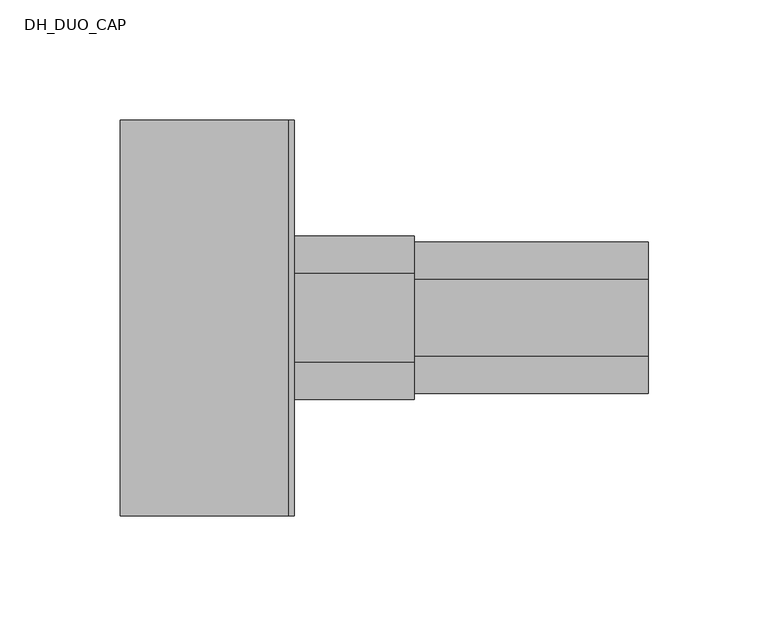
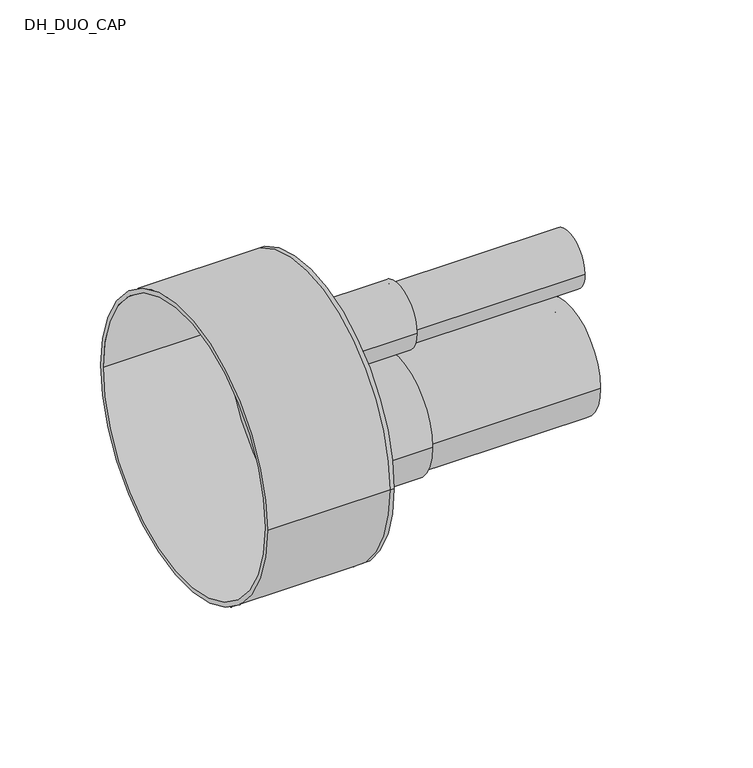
"""IFC4 building model written with IfcOpenShell, lengths in millimetres: pipe fitting geometry, DH_DUO_CAP : INSULPEX DUO 7.4 DW - Schrink Cap."""

import ifcopenshell
import ifcopenshell.guid

model = None  # the IFC model being written
_history = None  # IfcOwnerHistory: only IFC2X3 demands one
_inside = {}  # id of a spatial element -> (the spatial element, [elements in it])
_under = {}  # id of a project, library or spatial element -> (it, [spatial elements below it])
_declared = {}  # id of a project -> (the project, [libraries it declares])
_typed = {}  # id of a type object -> (the type object, [elements of that type])
_made_of = {}  # id of a material, layer set ... -> (it, [elements and type objects made of it])


def new_model(schema):
    """Start an empty IFC model of exactly this schema.

    Asked for "IFC4X3", IfcOpenShell would pick the latest addendum, in which some entities
    have other attributes; the version numbers below select the first issue.
    IFC2X3 requires an IfcOwnerHistory on every rooted entity: one is made here for all.
    """
    global model, _history
    if schema == "IFC4X3":
        model = ifcopenshell.file(schema_version=(4, 3, 0, 0))
    else:
        model = ifcopenshell.file(schema=schema)
    _inside.clear()
    _under.clear()
    _declared.clear()
    _typed.clear()
    _made_of.clear()
    _history = None
    if model.schema == "IFC2X3":
        org = make("IfcOrganization", Name="unknown")
        user = make(
            "IfcPersonAndOrganization",
            ThePerson=make("IfcPerson", FamilyName="unknown"),
            TheOrganization=org,
        )
        app = make(
            "IfcApplication",
            ApplicationDeveloper=org,
            Version="unknown",
            ApplicationFullName="unknown",
            ApplicationIdentifier="unknown",
        )
        _history = make(
            "IfcOwnerHistory",
            OwningUser=user,
            OwningApplication=app,
            ChangeAction="ADDED",
            CreationDate=0,
        )
    return model


def make(cls, **values):
    """One entity of the class cls with the attributes given. An attribute that is None is left unset."""
    return model.create_entity(
        cls, **{name: value for name, value in values.items() if value is not None}
    )


def rooted(cls, **values):
    """An entity with a GlobalId (a new one), such as an element, a storey or a relation."""
    return make(cls, GlobalId=ifcopenshell.guid.new(), OwnerHistory=_history, **values)


def si_unit(unit_type, name, prefix=None):
    """IfcSIUnit, for example si_unit("LENGTHUNIT", "METRE", prefix="MILLI")."""
    return make("IfcSIUnit", UnitType=unit_type, Prefix=prefix, Name=name)


def assignment(units):
    """IfcUnitAssignment: the units of a project."""
    return None if units is None else make("IfcUnitAssignment", Units=units)


def point(xyz):
    """IfcCartesianPoint."""
    return None if xyz is None else make("IfcCartesianPoint", Coordinates=xyz)


def direction(xyz):
    """IfcDirection."""
    return None if xyz is None else make("IfcDirection", DirectionRatios=xyz)


def frame(location, z_axis=None, x_axis=None):
    """IfcAxis2Placement3D, a coordinate frame: its origin and axes. An axis left out is left unset."""
    return make(
        "IfcAxis2Placement3D",
        Location=point(location),
        Axis=direction(z_axis),
        RefDirection=direction(x_axis),
    )


def frame_2d(location, x_axis=None):
    """IfcAxis2Placement2D, a coordinate frame in the plane: its origin and x axis."""
    return make(
        "IfcAxis2Placement2D", Location=point(location), RefDirection=direction(x_axis)
    )


def origin():
    """The frame at (0, 0, 0) with its axes left unset."""
    return frame((0.0, 0.0, 0.0))


def place(relative_to, where):
    """IfcLocalPlacement: puts the frame where relative to a parent placement (None: the world)."""
    return make(
        "IfcLocalPlacement", PlacementRelTo=relative_to, RelativePlacement=where
    )


def context(
    kind, dimensions, precision=None, world=None, true_north=None, identifier=None
):
    """IfcGeometricRepresentationContext, for example the 3D "Model" context."""
    return make(
        "IfcGeometricRepresentationContext",
        ContextIdentifier=identifier,
        ContextType=kind,
        CoordinateSpaceDimension=dimensions,
        Precision=precision,
        WorldCoordinateSystem=world,
        TrueNorth=true_north,
    )


def project(units=None, contexts=None):
    """IfcProject with its units and contexts."""
    return rooted(
        "IfcProject",
        Name="project",
        RepresentationContexts=contexts,
        UnitsInContext=assignment(units),
    )


def spatial(cls, under=None, at=None, **own):
    """A site, building, storey or space (cls), placed at a placement, below another one or the project."""
    s = rooted(cls, ObjectPlacement=at, **own)
    if under is not None:
        _under.setdefault(under.id(), (under, []))[1].append(s)
    return s


def polyline(points):
    """IfcPolyline through the points."""
    return make("IfcPolyline", Points=[point(p) for p in points])


def circle_curve(where, radius):
    """IfcCircle in the frame where."""
    return make("IfcCircle", Position=where, Radius=radius)


def trimmed(basis, trim1, trim2, sense, master):
    """IfcTrimmedCurve: the piece of a basis curve between two trims."""
    return make(
        "IfcTrimmedCurve",
        BasisCurve=basis,
        Trim1=trim1,
        Trim2=trim2,
        SenseAgreement=sense,
        MasterRepresentation=master,
    )


def segment(curve, same_sense, transition):
    """IfcCompositeCurveSegment."""
    return make(
        "IfcCompositeCurveSegment",
        Transition=transition,
        SameSense=same_sense,
        ParentCurve=curve,
    )


def composite_curve(segments, self_intersect=None):
    """IfcCompositeCurve: segments joined end to end."""
    return make("IfcCompositeCurve", Segments=segments, SelfIntersect=self_intersect)


def outline(outer, holes=None, kind="AREA"):
    """IfcArbitraryClosedProfileDef: a profile drawn as a closed curve; with holes, ...WithVoids."""
    if holes is None:
        return make("IfcArbitraryClosedProfileDef", ProfileType=kind, OuterCurve=outer)
    return make(
        "IfcArbitraryProfileDefWithVoids",
        ProfileType=kind,
        OuterCurve=outer,
        InnerCurves=holes,
    )


def extrude(swept, where, along, depth):
    """IfcExtrudedAreaSolid: the profile swept, set in the frame where, extruded along a direction by depth."""
    return make(
        "IfcExtrudedAreaSolid",
        SweptArea=swept,
        Position=where,
        ExtrudedDirection=direction(along),
        Depth=depth,
    )


def shape(context_of_items, identifier, shape_type, items):
    """IfcShapeRepresentation: the items that make up one representation, for example the "Body"."""
    return make(
        "IfcShapeRepresentation",
        ContextOfItems=context_of_items,
        RepresentationIdentifier=identifier,
        RepresentationType=shape_type,
        Items=items,
    )


def source(mapping_origin, context_of_items, identifier, shape_type, items):
    """IfcRepresentationMap: a shape defined once, which mapped items show again and again."""
    return make(
        "IfcRepresentationMap",
        MappingOrigin=mapping_origin,
        MappedRepresentation=shape(context_of_items, identifier, shape_type, items),
    )


def transform(
    local_origin,
    x_axis=None,
    y_axis=None,
    z_axis=None,
    scale=None,
    scale2=None,
    scale3=None,
    uniform=True,
):
    """IfcCartesianTransformationOperator3D, or its non-uniform kind. x_axis, y_axis, z_axis: its Axis1, 2, 3."""
    if uniform:
        return make(
            "IfcCartesianTransformationOperator3D",
            Axis1=direction(x_axis),
            Axis2=direction(y_axis),
            LocalOrigin=point(local_origin),
            Scale=scale,
            Axis3=direction(z_axis),
        )
    return make(
        "IfcCartesianTransformationOperator3DnonUniform",
        Axis1=direction(x_axis),
        Axis2=direction(y_axis),
        LocalOrigin=point(local_origin),
        Scale=scale,
        Axis3=direction(z_axis),
        Scale2=scale2,
        Scale3=scale3,
    )


def mapped(mapping_source, mapping_target):
    """IfcMappedItem: shows the shape of a source again, moved by a transform."""
    return make(
        "IfcMappedItem", MappingSource=mapping_source, MappingTarget=mapping_target
    )


def made_of(thing, what):
    """Note that an element or type object is made of a material, layer set ...; save() writes the relation."""
    if what is not None:
        _made_of.setdefault(what.id(), (what, []))[1].append(thing)
    return thing


def element(
    cls,
    number,
    at=None,
    inside=None,
    cuts=None,
    type_object=None,
    material=None,
    context=None,
    identifier="Body",
    shape_type=None,
    held_by="IfcProductDefinitionShape",
    body=None,
    shapes=None,
    **own,
):
    """One element of the class cls, such as IfcWall. Its Tag is "e" and its number.

    at: its placement. inside: the storey or other place that contains it. cuts: it is an
    opening in that element (IfcRelVoidsElement). A single representation is given by context,
    identifier, shape_type and body (its items); several are given by shapes. held_by: the class
    of the entity that holds the representations. save() writes the other relations.
    """
    e = rooted(cls, Tag="e%d" % number, ObjectPlacement=at, **own)
    if body is not None:
        shapes = [shape(context, identifier, shape_type, body)]
    if shapes is not None:
        e.Representation = make(held_by, Representations=shapes)
    if inside is not None:
        _inside.setdefault(inside.id(), (inside, []))[1].append(e)
    if cuts is not None:
        rooted(
            "IfcRelVoidsElement", RelatingBuildingElement=cuts, RelatedOpeningElement=e
        )
    if type_object is not None:
        _typed.setdefault(type_object.id(), (type_object, []))[1].append(e)
    return made_of(e, material)


def aggregate(whole, parts):
    """IfcRelAggregates: a whole, such as a stair, and the parts it consists of."""
    return rooted("IfcRelAggregates", RelatingObject=whole, RelatedObjects=parts)


def save(model, path):
    """Write the relations noted so far, then the file.

    IfcRelAggregates (storeys below a building ...), IfcRelContainedInSpatialStructure (elements
    in a storey), IfcRelDefinesByType, IfcRelAssociatesMaterial and IfcRelDeclares: one each for
    every whole, place, type object, material and project.
    """
    for whole, parts in _under.values():
        aggregate(whole, parts)
    for where, things in _inside.values():
        rooted(
            "IfcRelContainedInSpatialStructure",
            RelatedElements=things,
            RelatingStructure=where,
        )
    for kind, things in _typed.values():
        rooted("IfcRelDefinesByType", RelatedObjects=things, RelatingType=kind)
    for what, things in _made_of.values():
        rooted("IfcRelAssociatesMaterial", RelatedObjects=things, RelatingMaterial=what)
    for by, libraries in _declared.values():
        rooted("IfcRelDeclares", RelatingContext=by, RelatedDefinitions=libraries)
    model.write(path)


def plane_surface(at):
    """IfcPlane: the flat surface through the origin of the frame at, square to its z axis."""
    return make("IfcPlane", Position=at)


def cylinder_surface(at, radius):
    """IfcCylindricalSurface: all points at the distance radius from the z axis of the frame at."""
    return make("IfcCylindricalSurface", Position=at, Radius=radius)


def revolved_surface(curve, axis_point, axis_direction):
    """IfcSurfaceOfRevolution: the curve turned about the line through axis_point along axis_direction."""
    return make(
        "IfcSurfaceOfRevolution",
        SweptCurve=make("IfcArbitraryOpenProfileDef", ProfileType="CURVE", Curve=curve),
        AxisPosition=make("IfcAxis1Placement", Location=point(axis_point), Axis=direction(axis_direction)),
    )


def advanced_brep(points, edges, surfaces, faces):
    """IfcAdvancedBrep: a solid bounded by faces that lie on surfaces and meet in shared edges.

    An edge is (start, end): straight between two places in points (the first is 0);
    or (start, end, curve); or (start, end, curve, False) where it runs against its curve.
    A face is (place in surfaces, loops), or (place, loops, False) where it looks against
    its surface's normal. A loop lists edges by number (the first is 1), with a minus sign
    where the edge is run from its end to its start. The first loop is the outer one.
    """
    corners = [point(p) for p in points]
    vertices = [make("IfcVertexPoint", VertexGeometry=c) for c in corners]
    made = []
    for start, end, *more in edges:
        made.append(
            make(
                "IfcEdgeCurve",
                EdgeStart=vertices[start],
                EdgeEnd=vertices[end],
                EdgeGeometry=more[0] if more else make("IfcPolyline", Points=[corners[start], corners[end]]),
                SameSense=more[1] if len(more) > 1 else True,
            )
        )
    hull = []
    for where, loops, *sense in faces:
        bounds = []
        for j, loop in enumerate(loops):
            ring = [make("IfcOrientedEdge", EdgeElement=made[abs(k) - 1], Orientation=k > 0) for k in loop]
            bounds.append(
                make(
                    "IfcFaceOuterBound" if j == 0 else "IfcFaceBound",
                    Bound=make("IfcEdgeLoop", EdgeList=ring),
                    Orientation=True,
                )
            )
        hull.append(make("IfcAdvancedFace", Bounds=bounds, FaceSurface=surfaces[where], SameSense=sense[0] if sense else True))
    return make("IfcAdvancedBrep", Outer=make("IfcClosedShell", CfsFaces=hull))


def dh_duo_cap_dc4fb15a(model_context):
    return source(origin(), model_context, "Body", "SolidModel", [
        extrude(outline(composite_curve([segment(trimmed(circle_curve(frame_2d((0.0, -22.0)), 31.5), [point((-31.5, -22.0))], [point((31.5, -22.0))], False, "CARTESIAN"), True, "CONTINUOUS"), segment(trimmed(circle_curve(frame_2d((0.0, -22.0)), 31.5), [point((31.5, -22.0))], [point((-31.5, -22.0))], False, "CARTESIAN"), True, "CONTINUOUS")], self_intersect=False), holes=[composite_curve([segment(trimmed(circle_curve(frame_2d((0.0, -22.0)), 22.9), [point((-22.9, -22.0))], [point((22.9, -22.0))], True, "CARTESIAN"), True, "CONTINUOUS"), segment(trimmed(circle_curve(frame_2d((0.0, -22.0)), 22.9), [point((22.9, -22.0))], [point((-22.9, -22.0))], True, "CARTESIAN"), True, "CONTINUOUS")], self_intersect=False)]), frame((0.0, 0.0, 0.0), z_axis=(1.0, 0.0, 0.0), x_axis=(0.0, 1.0, 0.0)), (0.0, 0.0, 1.0), 150.0),
        extrude(outline(composite_curve([segment(trimmed(circle_curve(frame_2d((0.0, 37.5)), 16.0), [point((-16.0, 37.5))], [point((16.0, 37.5))], False, "CARTESIAN"), True, "CONTINUOUS"), segment(trimmed(circle_curve(frame_2d((0.0, 37.5)), 16.0), [point((16.0, 37.5))], [point((-16.0, 37.5))], False, "CARTESIAN"), True, "CONTINUOUS")], self_intersect=False), holes=[composite_curve([segment(trimmed(circle_curve(frame_2d((0.0, 37.5)), 11.6), [point((-11.6, 37.5))], [point((11.6, 37.5))], True, "CARTESIAN"), True, "CONTINUOUS"), segment(trimmed(circle_curve(frame_2d((0.0, 37.5)), 11.6), [point((11.6, 37.5))], [point((-11.6, 37.5))], True, "CARTESIAN"), True, "CONTINUOUS")], self_intersect=False)]), frame((0.0, 0.0, 0.0), z_axis=(1.0, 0.0, 0.0), x_axis=(0.0, 1.0, 0.0)), (0.0, 0.0, 1.0), 150.0),
        advanced_brep(
        [(-70.0, -82.5, 0.0), (-70.0, 82.5, 0.0), (-70.0, -80.0, 0.0), (-70.0, 80.0, 0.0), (0.0, -80.0, 0.0), (0.0, 80.0, 0.0), (0.0, -82.5, 0.0), (0.0, 82.5, 0.0), (0.0, 16.0, 37.5), (0.0, -16.0, 37.5), (0.0, 31.5, -22.0), (0.0, -31.5, -22.0), (2.5, -82.5, 0.0), (2.5, 82.5, 0.0), (2.5, -16.0, 37.5), (2.5, 16.0, 37.5), (2.5, -31.5, -22.0), (2.5, 31.5, -22.0)],
        [
            (0, 1, circle_curve(frame((-70.0, 0.0, 0.0), z_axis=(-1.0, 0.0, 0.0), x_axis=(0.0, 1.0, 0.0)), 82.5)),
            (1, 0, circle_curve(frame((-70.0, 0.0, 0.0), z_axis=(-1.0, 0.0, 0.0), x_axis=(0.0, 1.0, 0.0)), 82.5)),
            (2, 3, circle_curve(frame((-70.0, 0.0, 0.0), z_axis=(1.0, 0.0, 0.0), x_axis=(0.0, 1.0, 0.0)), 80.0)),
            (3, 2, circle_curve(frame((-70.0, 0.0, 0.0), z_axis=(1.0, 0.0, 0.0), x_axis=(0.0, 1.0, 0.0)), 80.0)),
            (2, 4),
            (4, 5, circle_curve(frame((0.0, 0.0, 0.0), z_axis=(1.0, 0.0, 0.0), x_axis=(0.0, 1.0, 0.0)), 80.0)),
            (5, 3),
            (5, 4, circle_curve(frame((0.0, 0.0, 0.0), z_axis=(1.0, 0.0, 0.0), x_axis=(0.0, 1.0, 0.0)), 80.0)),
            (0, 6),
            (6, 7, circle_curve(frame((0.0, 0.0, 0.0), z_axis=(-1.0, 0.0, 0.0), x_axis=(0.0, 1.0, 0.0)), 82.5)),
            (7, 1),
            (7, 6, circle_curve(frame((0.0, 0.0, 0.0), z_axis=(-1.0, 0.0, 0.0), x_axis=(0.0, 1.0, 0.0)), 82.5)),
            (8, 9, circle_curve(frame((0.0, 0.0, 37.5), z_axis=(1.0, 0.0, 0.0), x_axis=(0.0, 1.0, 0.0)), 16.0)),
            (9, 8, circle_curve(frame((0.0, 0.0, 37.5), z_axis=(1.0, 0.0, 0.0), x_axis=(0.0, 1.0, 0.0)), 16.0)),
            (10, 11, circle_curve(frame((0.0, 0.0, -22.0), z_axis=(1.0, 0.0, 0.0), x_axis=(0.0, 1.0, 0.0)), 31.5)),
            (11, 10, circle_curve(frame((0.0, 0.0, -22.0), z_axis=(1.0, 0.0, 0.0), x_axis=(0.0, 1.0, 0.0)), 31.5)),
            (12, 13, circle_curve(frame((2.5, 0.0, 0.0), z_axis=(1.0, 0.0, 0.0), x_axis=(0.0, 1.0, 0.0)), 82.5)),
            (13, 12, circle_curve(frame((2.5, 0.0, 0.0), z_axis=(1.0, 0.0, 0.0), x_axis=(0.0, 1.0, 0.0)), 82.5)),
            (14, 15, circle_curve(frame((2.5, 0.0, 37.5), z_axis=(-1.0, 0.0, 0.0), x_axis=(0.0, 1.0, 0.0)), 16.0)),
            (15, 14, circle_curve(frame((2.5, 0.0, 37.5), z_axis=(-1.0, 0.0, 0.0), x_axis=(0.0, 1.0, 0.0)), 16.0)),
            (16, 17, circle_curve(frame((2.5, 0.0, -22.0), z_axis=(-1.0, 0.0, 0.0), x_axis=(0.0, 1.0, 0.0)), 31.5)),
            (17, 16, circle_curve(frame((2.5, 0.0, -22.0), z_axis=(-1.0, 0.0, 0.0), x_axis=(0.0, 1.0, 0.0)), 31.5)),
            (13, 7),
            (6, 12),
            (8, 15),
            (14, 9),
            (10, 17),
            (16, 11),
        ],
        [
            plane_surface(frame((-70.0, 0.0, 0.0), z_axis=(-1.0, 0.0, 0.0), x_axis=(0.0, 0.0, 1.0))),
            revolved_surface(polyline([(0.0, 80.0, 0.0), (-70.0, 80.0, 0.0)]), (-70.0, 0.0, 0.0), (1.0, 0.0, 0.0)),
            cylinder_surface(frame((-70.0, 0.0, 0.0), z_axis=(-1.0, 0.0, 0.0), x_axis=(0.0, 1.0, 0.0)), 82.5),
            plane_surface(frame((0.0, 0.0, 0.0), z_axis=(-1.0, 0.0, 0.0), x_axis=(0.0, 0.0, 1.0))),
            plane_surface(frame((2.5, 0.0, 0.0), z_axis=(1.0, 0.0, 0.0), x_axis=(0.0, 0.0, 1.0))),
            cylinder_surface(frame((0.0, 0.0, 0.0), z_axis=(-1.0, 0.0, 0.0), x_axis=(0.0, 1.0, 0.0)), 82.5),
            revolved_surface(polyline([(0.0, 16.0, 37.5), (2.5, 16.0, 37.5)]), (0.0, 0.0, 37.5), (-1.0, 0.0, 0.0)),
            revolved_surface(polyline([(0.0, 31.5, -22.0), (2.5, 31.5, -22.0)]), (0.0, 0.0, -22.0), (-1.0, 0.0, 0.0)),
        ],
        [
            (0, [[1, 2], [3, 4]]),
            (1, [[-3, 5, 6, 7]]),
            (1, [[-4, -7, 8, -5]]),
            (2, [[-1, 9, 10, 11]]),
            (2, [[-2, -11, 12, -9]]),
            (3, [[-6, -8], [13, 14], [15, 16]]),
            (4, [[17, 18], [19, 20], [21, 22]]),
            (5, [[-18, 23, -10, 24]]),
            (5, [[-17, -24, -12, -23]]),
            (6, [[25, -19, 26, -13]]),
            (6, [[-25, -14, -26, -20]]),
            (7, [[27, -21, 28, -15]]),
            (7, [[-27, -16, -28, -22]]),
        ],
    ),
        extrude(outline(composite_curve([segment(trimmed(circle_curve(frame_2d((0.0, -22.0)), 34.0), [point((-34.0, -22.0))], [point((34.0, -22.0))], False, "CARTESIAN"), True, "CONTINUOUS"), segment(trimmed(circle_curve(frame_2d((0.0, -22.0)), 34.0), [point((34.0, -22.0))], [point((-34.0, -22.0))], False, "CARTESIAN"), True, "CONTINUOUS")], self_intersect=False), holes=[composite_curve([segment(trimmed(circle_curve(frame_2d((0.0, -22.0)), 31.5), [point((-31.5, -22.0))], [point((31.5, -22.0))], True, "CARTESIAN"), True, "CONTINUOUS"), segment(trimmed(circle_curve(frame_2d((0.0, -22.0)), 31.5), [point((31.5, -22.0))], [point((-31.5, -22.0))], True, "CARTESIAN"), True, "CONTINUOUS")], self_intersect=False)]), frame((2.5, 0.0, 0.0), z_axis=(1.0, 0.0, 0.0), x_axis=(0.0, 1.0, 0.0)), (0.0, 0.0, 1.0), 50.0),
        extrude(outline(composite_curve([segment(trimmed(circle_curve(frame_2d((0.0, 37.5)), 18.5), [point((-18.5, 37.5))], [point((18.5, 37.5))], False, "CARTESIAN"), True, "CONTINUOUS"), segment(trimmed(circle_curve(frame_2d((0.0, 37.5)), 18.5), [point((18.5, 37.5))], [point((-18.5, 37.5))], False, "CARTESIAN"), True, "CONTINUOUS")], self_intersect=False), holes=[composite_curve([segment(trimmed(circle_curve(frame_2d((0.0, 37.5)), 16.0), [point((-16.0, 37.5))], [point((16.0, 37.5))], True, "CARTESIAN"), True, "CONTINUOUS"), segment(trimmed(circle_curve(frame_2d((0.0, 37.5)), 16.0), [point((16.0, 37.5))], [point((-16.0, 37.5))], True, "CARTESIAN"), True, "CONTINUOUS")], self_intersect=False)]), frame((2.5, 0.0, 0.0), z_axis=(1.0, 0.0, 0.0), x_axis=(0.0, 1.0, 0.0)), (0.0, 0.0, 1.0), 50.0),
    ])


if __name__ == "__main__":
    model = new_model("IFC4")
    model_context = context("Model", 3, world=origin())
    ifc_project = project(units=[si_unit("LENGTHUNIT", "METRE", prefix="MILLI")], contexts=[model_context])
    site = spatial("IfcSite", under=ifc_project)
    building = spatial("IfcBuilding", under=site)
    placement = place(None, origin())
    dh_duo_cap_shape = dh_duo_cap_dc4fb15a(model_context)
    element("IfcPipeFitting", 1, ObjectType="DH_DUO_CAP : INSULPEX DUO 7.4 DW - Schrink Cap", at=placement, inside=building, context=model_context, shape_type="MappedRepresentation", body=[
        mapped(dh_duo_cap_shape, transform((0.0, 0.0, 0.0), x_axis=(1.0, 0.0, 0.0), y_axis=(0.0, 1.0, 0.0), z_axis=(0.0, 0.0, 1.0))),
    ])
    save(model, "model.ifc")
